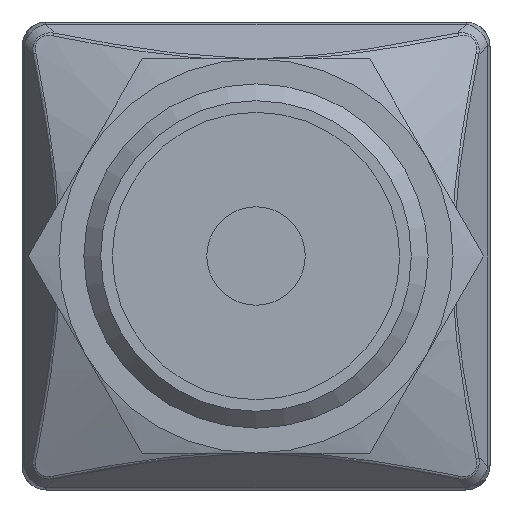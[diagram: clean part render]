
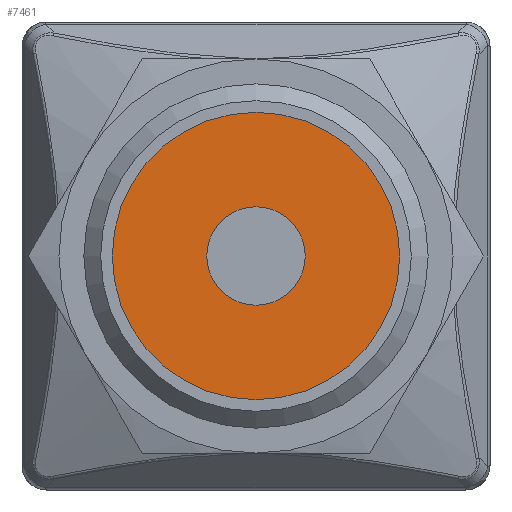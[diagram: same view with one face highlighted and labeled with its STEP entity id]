
A CAD part, left-side view. The second image highlights one B-rep face of the part: STEP entity #7461.
In plain terms, the highlighted planar face has unit normal (-1, 0, 0).
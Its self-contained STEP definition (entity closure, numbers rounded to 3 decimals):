
#371=FACE_BOUND('',#1229,.T.);
#808=FACE_OUTER_BOUND('',#1228,.T.);
#1228=EDGE_LOOP('',(#6411));
#1229=EDGE_LOOP('',(#6412));
#1451=CIRCLE('',#8011,3.);
#1452=CIRCLE('',#8013,8.75);
#3353=VERTEX_POINT('',#13397);
#3354=VERTEX_POINT('',#13401);
#4374=EDGE_CURVE('',#3353,#3353,#1451,.T.);
#4376=EDGE_CURVE('',#3354,#3354,#1452,.T.);
#6411=ORIENTED_EDGE('',*,*,#4376,.F.);
#6412=ORIENTED_EDGE('',*,*,#4374,.T.);
#6691=PLANE('',#8012);
#7461=ADVANCED_FACE('',(#808,#371),#6691,.T.);
#8011=AXIS2_PLACEMENT_3D('',#13398,#9668,#9669);
#8012=AXIS2_PLACEMENT_3D('',#13400,#9671,#9672);
#8013=AXIS2_PLACEMENT_3D('',#13402,#9673,#9674);
#9668=DIRECTION('center_axis',(1.,0.,0.));
#9669=DIRECTION('ref_axis',(0.,1.,0.));
#9671=DIRECTION('center_axis',(-1.,0.,0.));
#9672=DIRECTION('ref_axis',(0.,0.,1.));
#9673=DIRECTION('center_axis',(1.,0.,0.));
#9674=DIRECTION('ref_axis',(0.,1.,0.));
#13397=CARTESIAN_POINT('',(-51.,-3.,0.));
#13398=CARTESIAN_POINT('Origin',(-51.,0.,0.));
#13400=CARTESIAN_POINT('Origin',(-51.,5.875,0.));
#13401=CARTESIAN_POINT('',(-51.,-8.75,0.));
#13402=CARTESIAN_POINT('Origin',(-51.,0.,0.));
